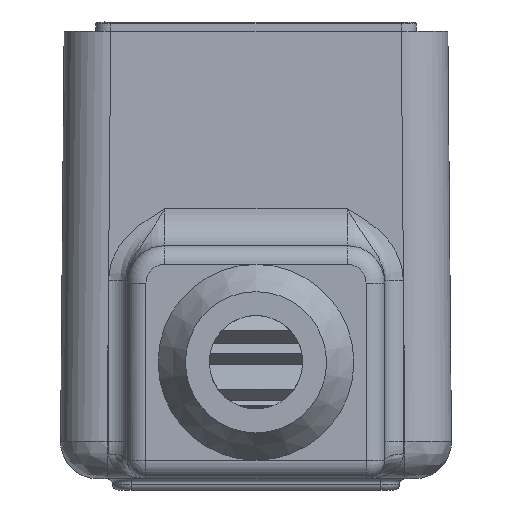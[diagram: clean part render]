
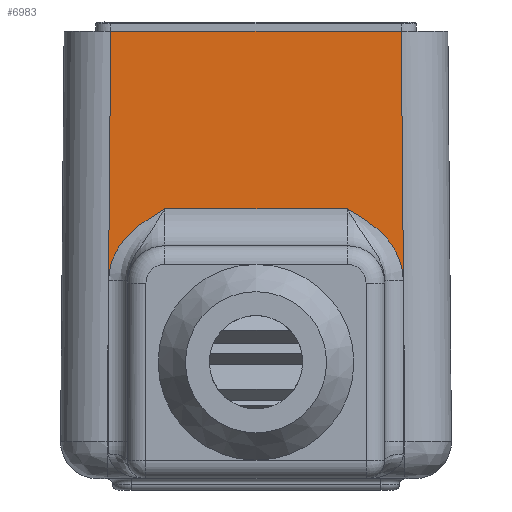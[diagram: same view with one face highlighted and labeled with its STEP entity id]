
A CAD part, front view. The second image highlights one B-rep face of the part: STEP entity #6983.
In plain terms, the highlighted planar face has unit normal (0, -1, 0.009).
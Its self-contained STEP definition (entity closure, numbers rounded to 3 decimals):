
#627=CARTESIAN_POINT('',(7.982,-13.982,2.017));
#628=VERTEX_POINT('',#627);
#644=CARTESIAN_POINT('',(7.791,-13.791,24.));
#645=VERTEX_POINT('',#644);
#653=CARTESIAN_POINT('',(7.791,-13.791,24.));
#654=DIRECTION('',(0.009,-0.009,-1.));
#655=VECTOR('',#654,21.984);
#656=LINE('',#653,#655);
#657=EDGE_CURVE('',#645,#628,#656,.T.);
#722=CARTESIAN_POINT('',(-7.982,-13.982,2.017));
#723=VERTEX_POINT('',#722);
#733=CARTESIAN_POINT('',(-7.791,-13.791,24.));
#734=VERTEX_POINT('',#733);
#735=CARTESIAN_POINT('',(-7.982,-13.982,2.017));
#736=DIRECTION('',(0.009,0.009,1.));
#737=VECTOR('',#736,21.984);
#738=LINE('',#735,#737);
#739=EDGE_CURVE('',#723,#734,#738,.T.);
#822=CARTESIAN_POINT('',(7.791,-13.791,24.));
#823=DIRECTION('',(-1.0,0.0,0.0));
#824=VECTOR('',#823,15.581);
#825=LINE('',#822,#824);
#826=EDGE_CURVE('',#645,#734,#825,.T.);
#6347=CARTESIAN_POINT('',(-4.9,-13.874,14.483));
#6348=VERTEX_POINT('',#6347);
#6432=CARTESIAN_POINT('',(4.9,-13.874,14.483));
#6433=VERTEX_POINT('',#6432);
#6443=CARTESIAN_POINT('',(4.9,-13.874,14.483));
#6444=DIRECTION('',(-1.0,0.0,0.0));
#6445=VECTOR('',#6444,9.8);
#6446=LINE('',#6443,#6445);
#6447=EDGE_CURVE('',#6433,#6348,#6446,.T.);
#6736=CARTESIAN_POINT('',(7.9,-13.982,2.017));
#6737=VERTEX_POINT('',#6736);
#6758=CARTESIAN_POINT('',(7.982,-13.982,2.017));
#6759=DIRECTION('',(-1.0,0.0,0.0));
#6760=VECTOR('',#6759,0.082);
#6761=LINE('',#6758,#6760);
#6762=EDGE_CURVE('',#628,#6737,#6761,.T.);
#6823=CARTESIAN_POINT('',(7.9,-13.907,10.61));
#6824=VERTEX_POINT('',#6823);
#6825=CARTESIAN_POINT('',(7.9,-13.907,10.61));
#6826=CARTESIAN_POINT('',(7.9,-13.904,10.952));
#6827=CARTESIAN_POINT('',(7.787,-13.898,11.644));
#6828=CARTESIAN_POINT('',(7.399,-13.892,12.417));
#6829=CARTESIAN_POINT('',(6.975,-13.887,12.962));
#6830=CARTESIAN_POINT('',(6.494,-13.883,13.448));
#6831=CARTESIAN_POINT('',(5.796,-13.878,13.965));
#6832=CARTESIAN_POINT('',(5.203,-13.875,14.308));
#6833=CARTESIAN_POINT('',(4.904,-13.874,14.48));
#6834=CARTESIAN_POINT('',(4.902,-13.874,14.481));
#6835=CARTESIAN_POINT('',(4.9,-13.874,14.483));
#6836=B_SPLINE_CURVE_WITH_KNOTS('',3,(#6825,#6826,#6827,#6828,#6829,#6830,#6831,#6832,#6833,#6834,#6835),.UNSPECIFIED.,.F.,.U.,(4,1,1,1,1,1,2,4),(-0.513,-0.411,-0.308,-0.257,-0.205,-0.103,0.0,0.001),.UNSPECIFIED.);
#6837=EDGE_CURVE('',#6824,#6433,#6836,.T.);
#6864=CARTESIAN_POINT('',(7.9,-13.982,2.017));
#6865=DIRECTION('',(0.0,0.009,1.));
#6866=VECTOR('',#6865,8.593);
#6867=LINE('',#6864,#6866);
#6868=EDGE_CURVE('',#6737,#6824,#6867,.T.);
#6938=CARTESIAN_POINT('',(10.5,-14.,0.0));
#6939=DIRECTION('',(0.,-1.,0.009));
#6940=DIRECTION('',(1.0,0.0,0.0));
#6941=AXIS2_PLACEMENT_3D('',#6938,#6939,#6940);
#6942=PLANE('',#6941);
#6943=CARTESIAN_POINT('',(-7.9,-13.907,10.61));
#6944=VERTEX_POINT('',#6943);
#6945=CARTESIAN_POINT('',(-7.9,-13.982,2.017));
#6946=VERTEX_POINT('',#6945);
#6947=CARTESIAN_POINT('',(-7.9,-13.907,10.61));
#6948=DIRECTION('',(0.0,-0.009,-1.));
#6949=VECTOR('',#6948,8.593);
#6950=LINE('',#6947,#6949);
#6951=EDGE_CURVE('',#6944,#6946,#6950,.T.);
#6952=ORIENTED_EDGE('',*,*,#6951,.F.);
#6953=CARTESIAN_POINT('',(-4.9,-13.874,14.483));
#6954=CARTESIAN_POINT('',(-4.902,-13.874,14.481));
#6955=CARTESIAN_POINT('',(-4.904,-13.874,14.48));
#6956=CARTESIAN_POINT('',(-5.203,-13.875,14.308));
#6957=CARTESIAN_POINT('',(-5.647,-13.877,14.05));
#6958=CARTESIAN_POINT('',(-6.215,-13.881,13.655));
#6959=CARTESIAN_POINT('',(-6.614,-13.884,13.326));
#6960=CARTESIAN_POINT('',(-6.975,-13.887,12.962));
#6961=CARTESIAN_POINT('',(-7.399,-13.892,12.417));
#6962=CARTESIAN_POINT('',(-7.787,-13.898,11.644));
#6963=CARTESIAN_POINT('',(-7.9,-13.904,10.952));
#6964=CARTESIAN_POINT('',(-7.9,-13.907,10.61));
#6965=B_SPLINE_CURVE_WITH_KNOTS('',3,(#6953,#6954,#6955,#6956,#6957,#6958,#6959,#6960,#6961,#6962,#6963,#6964),.UNSPECIFIED.,.F.,.U.,(4,2,1,1,1,1,1,1,4),(-0.514,-0.513,-0.411,-0.359,-0.308,-0.257,-0.205,-0.103,0.0),.UNSPECIFIED.);
#6966=EDGE_CURVE('',#6348,#6944,#6965,.T.);
#6967=ORIENTED_EDGE('',*,*,#6966,.F.);
#6968=ORIENTED_EDGE('',*,*,#6447,.F.);
#6969=ORIENTED_EDGE('',*,*,#6837,.F.);
#6970=ORIENTED_EDGE('',*,*,#6868,.F.);
#6971=ORIENTED_EDGE('',*,*,#6762,.F.);
#6972=ORIENTED_EDGE('',*,*,#657,.F.);
#6973=ORIENTED_EDGE('',*,*,#826,.T.);
#6974=ORIENTED_EDGE('',*,*,#739,.F.);
#6975=CARTESIAN_POINT('',(-7.9,-13.982,2.017));
#6976=DIRECTION('',(-1.0,0.0,0.0));
#6977=VECTOR('',#6976,0.082);
#6978=LINE('',#6975,#6977);
#6979=EDGE_CURVE('',#6946,#723,#6978,.T.);
#6980=ORIENTED_EDGE('',*,*,#6979,.F.);
#6981=EDGE_LOOP('',(#6952,#6967,#6968,#6969,#6970,#6971,#6972,#6973,#6974,#6980));
#6982=FACE_OUTER_BOUND('',#6981,.T.);
#6983=ADVANCED_FACE('',(#6982),#6942,.T.);
